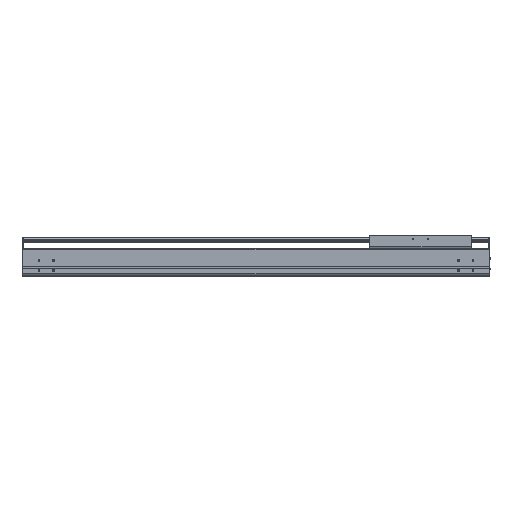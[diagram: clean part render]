
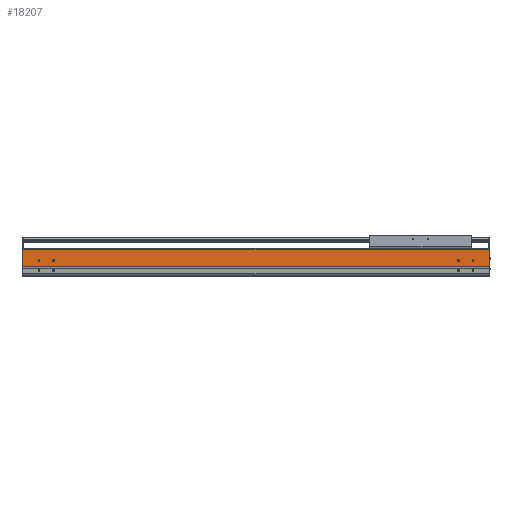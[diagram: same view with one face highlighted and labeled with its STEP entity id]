
A CAD part, top view. The second image highlights one B-rep face of the part: STEP entity #18207.
In plain terms, the highlighted planar face has unit normal (0, 0, 1).
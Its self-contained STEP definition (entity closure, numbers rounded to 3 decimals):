
#506=DIRECTION('',(0.,-1.,0.));
#507=VECTOR('',#506,2.55);
#508=CARTESIAN_POINT('',(0.,34.65,107.));
#509=LINE('',#508,#507);
#2129=DIRECTION('',(1.,0.,0.));
#2130=VECTOR('',#2129,2.);
#2131=CARTESIAN_POINT('',(0.,34.65,107.));
#2132=LINE('',#2131,#2130);
#2137=CARTESIAN_POINT('',(-54.5,54.,107.));
#2138=DIRECTION('',(0.,0.,-1.));
#2139=DIRECTION('',(1.,0.,0.));
#2140=AXIS2_PLACEMENT_3D('',#2137,#2138,#2139);
#2142=CARTESIAN_POINT('',(-54.5,54.,107.));
#2143=DIRECTION('',(0.,0.,-1.));
#2144=DIRECTION('',(-1.,0.,0.));
#2145=AXIS2_PLACEMENT_3D('',#2142,#2143,#2144);
#2147=CARTESIAN_POINT('',(-104.5,54.,107.));
#2148=DIRECTION('',(0.,0.,-1.));
#2149=DIRECTION('',(1.,0.,0.));
#2150=AXIS2_PLACEMENT_3D('',#2147,#2148,#2149);
#2152=CARTESIAN_POINT('',(-104.5,54.,107.));
#2153=DIRECTION('',(0.,0.,-1.));
#2154=DIRECTION('',(-1.,0.,0.));
#2155=AXIS2_PLACEMENT_3D('',#2152,#2153,#2154);
#2157=CARTESIAN_POINT('',(-1554.5,54.,107.));
#2158=DIRECTION('',(0.,0.,-1.));
#2159=DIRECTION('',(1.,0.,0.));
#2160=AXIS2_PLACEMENT_3D('',#2157,#2158,#2159);
#2162=CARTESIAN_POINT('',(-1554.5,54.,107.));
#2163=DIRECTION('',(0.,0.,-1.));
#2164=DIRECTION('',(-1.,0.,0.));
#2165=AXIS2_PLACEMENT_3D('',#2162,#2163,#2164);
#2167=CARTESIAN_POINT('',(-1504.5,54.,107.));
#2168=DIRECTION('',(0.,0.,-1.));
#2169=DIRECTION('',(1.,0.,0.));
#2170=AXIS2_PLACEMENT_3D('',#2167,#2168,#2169);
#2172=CARTESIAN_POINT('',(-1504.5,54.,107.));
#2173=DIRECTION('',(0.,0.,-1.));
#2174=DIRECTION('',(-1.,0.,0.));
#2175=AXIS2_PLACEMENT_3D('',#2172,#2173,#2174);
#2177=DIRECTION('',(0.,-1.,0.));
#2178=VECTOR('',#2177,2.55);
#2179=CARTESIAN_POINT('',(-1609.,34.65,107.));
#2180=LINE('',#2179,#2178);
#2181=DIRECTION('',(0.,-1.,0.));
#2182=VECTOR('',#2181,58.85);
#2183=CARTESIAN_POINT('',(-1611.,93.5,107.));
#2184=LINE('',#2183,#2182);
#2185=DIRECTION('',(0.,1.,0.));
#2186=VECTOR('',#2185,58.85);
#2187=CARTESIAN_POINT('',(2.,34.65,107.));
#2188=LINE('',#2187,#2186);
#2189=DIRECTION('',(1.,0.,0.));
#2190=VECTOR('',#2189,1609.);
#2191=CARTESIAN_POINT('',(-1609.,32.1,107.));
#2192=LINE('',#2191,#2190);
#2301=DIRECTION('',(1.,0.,0.));
#2302=VECTOR('',#2301,2.);
#2303=CARTESIAN_POINT('',(-1611.,34.65,107.));
#2304=LINE('',#2303,#2302);
#2313=DIRECTION('',(-1.,0.,0.));
#2314=VECTOR('',#2313,1613.);
#2315=CARTESIAN_POINT('',(2.,93.5,107.));
#2316=LINE('',#2315,#2314);
#12379=CARTESIAN_POINT('',(-1611.,34.65,107.));
#12380=VERTEX_POINT('',#12379);
#12381=CARTESIAN_POINT('',(-1611.,93.5,107.));
#12382=VERTEX_POINT('',#12381);
#12611=CARTESIAN_POINT('',(-1609.,32.1,107.));
#12612=VERTEX_POINT('',#12611);
#13166=CARTESIAN_POINT('',(0.,32.1,107.));
#13167=VERTEX_POINT('',#13166);
#13168=CARTESIAN_POINT('',(-52.,54.,107.));
#13169=CARTESIAN_POINT('',(-57.,54.,107.));
#13170=VERTEX_POINT('',#13168);
#13171=VERTEX_POINT('',#13169);
#13172=CARTESIAN_POINT('',(-102.,54.,107.));
#13173=CARTESIAN_POINT('',(-107.,54.,107.));
#13174=VERTEX_POINT('',#13172);
#13175=VERTEX_POINT('',#13173);
#13176=CARTESIAN_POINT('',(-1552.,54.,107.));
#13177=CARTESIAN_POINT('',(-1557.,54.,107.));
#13178=VERTEX_POINT('',#13176);
#13179=VERTEX_POINT('',#13177);
#13180=CARTESIAN_POINT('',(-1502.,54.,107.));
#13181=CARTESIAN_POINT('',(-1507.,54.,107.));
#13182=VERTEX_POINT('',#13180);
#13183=VERTEX_POINT('',#13181);
#14353=CARTESIAN_POINT('',(2.,34.65,107.));
#14354=VERTEX_POINT('',#14353);
#14355=CARTESIAN_POINT('',(2.,93.5,107.));
#14356=VERTEX_POINT('',#14355);
#14699=CARTESIAN_POINT('',(0.,34.65,107.));
#14700=VERTEX_POINT('',#14699);
#14887=CARTESIAN_POINT('',(-1609.,34.65,107.));
#14888=VERTEX_POINT('',#14887);
#18165=CARTESIAN_POINT('',(-804.5,62.8,107.));
#18166=DIRECTION('',(0.,0.,1.));
#18167=DIRECTION('',(0.,-1.,0.));
#18168=AXIS2_PLACEMENT_3D('',#18165,#18166,#18167);
#18169=PLANE('',#18168);
#18170=ORIENTED_EDGE('',*,*,#15633,.F.);
#18172=ORIENTED_EDGE('',*,*,#18171,.F.);
#18173=ORIENTED_EDGE('',*,*,#16732,.F.);
#18175=ORIENTED_EDGE('',*,*,#18174,.F.);
#18176=ORIENTED_EDGE('',*,*,#17963,.F.);
#18177=ORIENTED_EDGE('',*,*,#18158,.F.);
#18178=ORIENTED_EDGE('',*,*,#16249,.T.);
#18180=ORIENTED_EDGE('',*,*,#18179,.F.);
#18181=EDGE_LOOP('',(#18170,#18172,#18173,#18175,#18176,#18177,#18178,#18180));
#18182=FACE_OUTER_BOUND('',#18181,.F.);
#18184=ORIENTED_EDGE('',*,*,#18183,.F.);
#18186=ORIENTED_EDGE('',*,*,#18185,.F.);
#18187=EDGE_LOOP('',(#18184,#18186));
#18188=FACE_BOUND('',#18187,.F.);
#18190=ORIENTED_EDGE('',*,*,#18189,.F.);
#18192=ORIENTED_EDGE('',*,*,#18191,.F.);
#18193=EDGE_LOOP('',(#18190,#18192));
#18194=FACE_BOUND('',#18193,.F.);
#18196=ORIENTED_EDGE('',*,*,#18195,.F.);
#18198=ORIENTED_EDGE('',*,*,#18197,.F.);
#18199=EDGE_LOOP('',(#18196,#18198));
#18200=FACE_BOUND('',#18199,.F.);
#18202=ORIENTED_EDGE('',*,*,#18201,.F.);
#18204=ORIENTED_EDGE('',*,*,#18203,.F.);
#18205=EDGE_LOOP('',(#18202,#18204));
#18206=FACE_BOUND('',#18205,.F.);
#18207=ADVANCED_FACE('',(#18182,#18188,#18194,#18200,#18206),#18169,.T.);
#2141=CIRCLE('',#2140,2.5);
#2146=CIRCLE('',#2145,2.5);
#2151=CIRCLE('',#2150,2.5);
#2156=CIRCLE('',#2155,2.5);
#2161=CIRCLE('',#2160,2.5);
#2166=CIRCLE('',#2165,2.5);
#2171=CIRCLE('',#2170,2.5);
#2176=CIRCLE('',#2175,2.5);
#15633=EDGE_CURVE('',#14888,#12612,#2180,.T.);
#16249=EDGE_CURVE('',#14700,#13167,#509,.T.);
#16732=EDGE_CURVE('',#12382,#12380,#2184,.T.);
#17963=EDGE_CURVE('',#14354,#14356,#2188,.T.);
#18158=EDGE_CURVE('',#14700,#14354,#2132,.T.);
#18171=EDGE_CURVE('',#12380,#14888,#2304,.T.);
#18174=EDGE_CURVE('',#14356,#12382,#2316,.T.);
#18179=EDGE_CURVE('',#12612,#13167,#2192,.T.);
#18183=EDGE_CURVE('',#13174,#13175,#2151,.T.);
#18185=EDGE_CURVE('',#13175,#13174,#2156,.T.);
#18189=EDGE_CURVE('',#13178,#13179,#2161,.T.);
#18191=EDGE_CURVE('',#13179,#13178,#2166,.T.);
#18195=EDGE_CURVE('',#13182,#13183,#2171,.T.);
#18197=EDGE_CURVE('',#13183,#13182,#2176,.T.);
#18201=EDGE_CURVE('',#13170,#13171,#2141,.T.);
#18203=EDGE_CURVE('',#13171,#13170,#2146,.T.);
